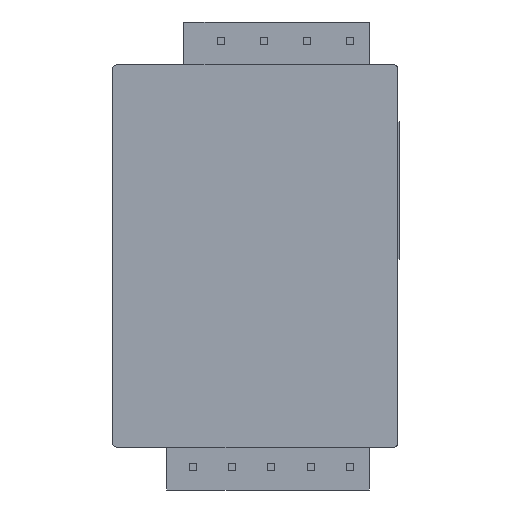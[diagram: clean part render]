
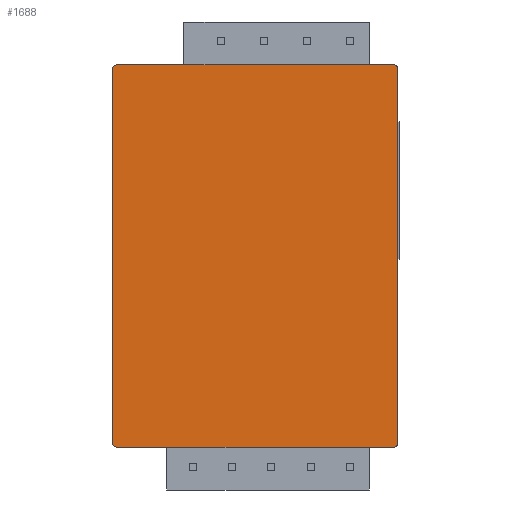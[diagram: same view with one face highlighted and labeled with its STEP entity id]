
A CAD part, front view. The second image highlights one B-rep face of the part: STEP entity #1688.
In plain terms, the highlighted planar face has unit normal (0, -1, 0).
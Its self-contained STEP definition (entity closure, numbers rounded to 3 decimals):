
#30=CIRCLE('',#1731,0.3);
#33=CIRCLE('',#1737,0.3);
#38=CIRCLE('',#1744,0.3);
#39=CIRCLE('',#1747,0.3);
#181=FACE_OUTER_BOUND('',#283,.T.);
#283=EDGE_LOOP('',(#1506,#1507,#1508,#1509,#1510,#1511,#1512,#1513,#1514,
#1515,#1516,#1517));
#318=LINE('',#2348,#521);
#331=LINE('',#2389,#534);
#453=LINE('',#2654,#656);
#460=LINE('',#2669,#663);
#483=LINE('',#2714,#686);
#484=LINE('',#2715,#687);
#485=LINE('',#2717,#688);
#486=LINE('',#2718,#689);
#521=VECTOR('',#1908,10.);
#534=VECTOR('',#1945,10.);
#656=VECTOR('',#2191,10.);
#663=VECTOR('',#2202,10.);
#686=VECTOR('',#2245,10.);
#687=VECTOR('',#2246,10.);
#688=VECTOR('',#2249,10.);
#689=VECTOR('',#2250,10.);
#719=VERTEX_POINT('',#2333);
#720=VERTEX_POINT('',#2335);
#724=VERTEX_POINT('',#2347);
#729=VERTEX_POINT('',#2359);
#738=VERTEX_POINT('',#2382);
#739=VERTEX_POINT('',#2384);
#740=VERTEX_POINT('',#2388);
#741=VERTEX_POINT('',#2392);
#820=VERTEX_POINT('',#2652);
#821=VERTEX_POINT('',#2653);
#826=VERTEX_POINT('',#2667);
#827=VERTEX_POINT('',#2668);
#878=EDGE_CURVE('',#719,#720,#30,.T.);
#884=EDGE_CURVE('',#720,#724,#318,.T.);
#890=EDGE_CURVE('',#724,#729,#33,.T.);
#903=EDGE_CURVE('',#738,#739,#38,.T.);
#905=EDGE_CURVE('',#739,#740,#331,.T.);
#907=EDGE_CURVE('',#740,#741,#39,.T.);
#1032=EDGE_CURVE('',#820,#821,#453,.T.);
#1039=EDGE_CURVE('',#826,#827,#460,.T.);
#1062=EDGE_CURVE('',#729,#827,#483,.T.);
#1063=EDGE_CURVE('',#826,#738,#484,.T.);
#1064=EDGE_CURVE('',#741,#821,#485,.T.);
#1065=EDGE_CURVE('',#820,#719,#486,.T.);
#1506=ORIENTED_EDGE('',*,*,#878,.F.);
#1507=ORIENTED_EDGE('',*,*,#1065,.F.);
#1508=ORIENTED_EDGE('',*,*,#1032,.T.);
#1509=ORIENTED_EDGE('',*,*,#1064,.F.);
#1510=ORIENTED_EDGE('',*,*,#907,.F.);
#1511=ORIENTED_EDGE('',*,*,#905,.F.);
#1512=ORIENTED_EDGE('',*,*,#903,.F.);
#1513=ORIENTED_EDGE('',*,*,#1063,.F.);
#1514=ORIENTED_EDGE('',*,*,#1039,.T.);
#1515=ORIENTED_EDGE('',*,*,#1062,.F.);
#1516=ORIENTED_EDGE('',*,*,#890,.F.);
#1517=ORIENTED_EDGE('',*,*,#884,.F.);
#1598=PLANE('',#1821);
#1688=ADVANCED_FACE('',(#181),#1598,.F.);
#1731=AXIS2_PLACEMENT_3D('',#2336,#1897,#1898);
#1737=AXIS2_PLACEMENT_3D('',#2360,#1918,#1919);
#1744=AXIS2_PLACEMENT_3D('',#2385,#1940,#1941);
#1747=AXIS2_PLACEMENT_3D('',#2393,#1949,#1950);
#1821=AXIS2_PLACEMENT_3D('',#2719,#2251,#2252);
#1897=DIRECTION('center_axis',(0.,1.,0.));
#1898=DIRECTION('ref_axis',(-0.707,0.,-0.707));
#1908=DIRECTION('',(0.,0.,1.));
#1918=DIRECTION('center_axis',(0.,1.,0.));
#1919=DIRECTION('ref_axis',(-0.707,0.,0.707));
#1940=DIRECTION('center_axis',(0.,1.,0.));
#1941=DIRECTION('ref_axis',(0.707,0.,0.707));
#1945=DIRECTION('',(0.,0.,-1.));
#1949=DIRECTION('center_axis',(0.,1.,0.));
#1950=DIRECTION('ref_axis',(0.707,0.,-0.707));
#2191=DIRECTION('',(1.,0.,0.));
#2202=DIRECTION('',(-1.,0.,0.));
#2245=DIRECTION('',(1.,0.,0.));
#2246=DIRECTION('',(1.,0.,0.));
#2249=DIRECTION('',(-1.,0.,0.));
#2250=DIRECTION('',(-1.,0.,0.));
#2251=DIRECTION('center_axis',(0.,1.,0.));
#2252=DIRECTION('ref_axis',(0.,0.,1.));
#2333=CARTESIAN_POINT('',(-19.7,0.,-26.8));
#2335=CARTESIAN_POINT('',(-20.,0.,-26.5));
#2336=CARTESIAN_POINT('Origin',(-19.7,0.,-26.5));
#2347=CARTESIAN_POINT('',(-20.,0.,-0.3));
#2348=CARTESIAN_POINT('',(-20.,0.,-26.8));
#2359=CARTESIAN_POINT('',(-19.7,0.,0.));
#2360=CARTESIAN_POINT('Origin',(-19.7,0.,-0.3));
#2382=CARTESIAN_POINT('',(-0.3,0.,0.));
#2384=CARTESIAN_POINT('',(0.,0.,-0.3));
#2385=CARTESIAN_POINT('Origin',(-0.3,0.,-0.3));
#2388=CARTESIAN_POINT('',(0.,0.,-26.5));
#2389=CARTESIAN_POINT('',(0.,0.,0.));
#2392=CARTESIAN_POINT('',(-0.3,0.,-26.8));
#2393=CARTESIAN_POINT('Origin',(-0.3,0.,-26.5));
#2652=CARTESIAN_POINT('',(-16.2,0.,-26.8));
#2653=CARTESIAN_POINT('',(-2.,0.,-26.8));
#2654=CARTESIAN_POINT('',(-6.,0.,-26.8));
#2667=CARTESIAN_POINT('',(-2.,0.,0.));
#2668=CARTESIAN_POINT('',(-15.,0.,0.));
#2669=CARTESIAN_POINT('',(-12.5,0.,0.));
#2714=CARTESIAN_POINT('',(-20.,0.,0.));
#2715=CARTESIAN_POINT('',(-20.,0.,0.));
#2717=CARTESIAN_POINT('',(0.,0.,-26.8));
#2718=CARTESIAN_POINT('',(0.,0.,-26.8));
#2719=CARTESIAN_POINT('Origin',(-10.,0.,-13.4));
